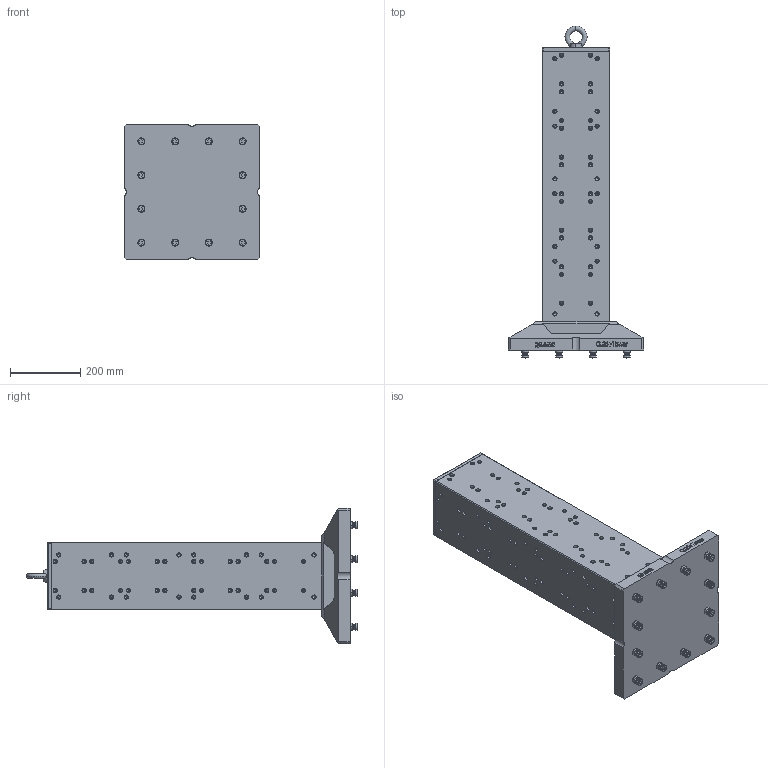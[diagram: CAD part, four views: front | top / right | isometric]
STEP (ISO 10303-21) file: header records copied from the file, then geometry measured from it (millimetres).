
FILE_DESCRIPTION (( 'STEP AP214' ), '1' );
FILE_NAME ('70850.STEP', '2023-02-14T14:24:02', ( '' ), ( '' ), 'SwSTEP 2.0', 'SolidWorks 2021', '' );
FILE_SCHEMA (( 'AUTOMOTIVE_DESIGN' ));
Length unit declared in the file: millimetre
Products named in the file (1): 70850
Bounding box: 384 x 944 x 384 mm (x, y, z)
Volume: 23517760.2 mm3; surface area: 1650936.3 mm2
Topology: 23 solids, 23 shells, 2970 faces, 6649 edges, 3763 vertices
Faces by surface type: cone 1067, cylinder 971, plane 699, bspline 129, torus 104
Entity records: 117860 total; most frequent: CARTESIAN_POINT 20207, DIRECTION 14493, ORIENTED_EDGE 12434, EDGE_CURVE 6217, AXIS2_PLACEMENT_3D 5713, VERTEX_POINT 3763, EDGE_LOOP 3460, VECTOR 3067
